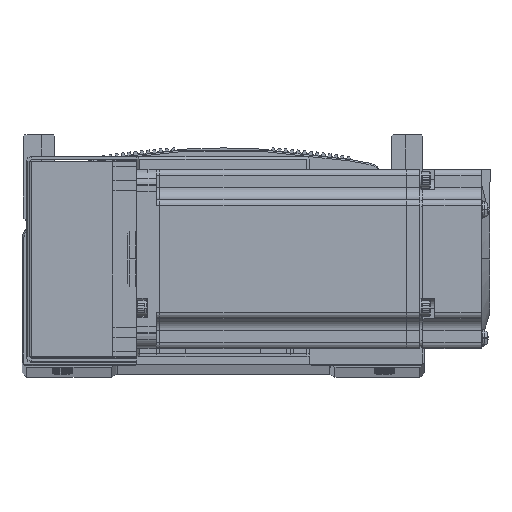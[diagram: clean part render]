
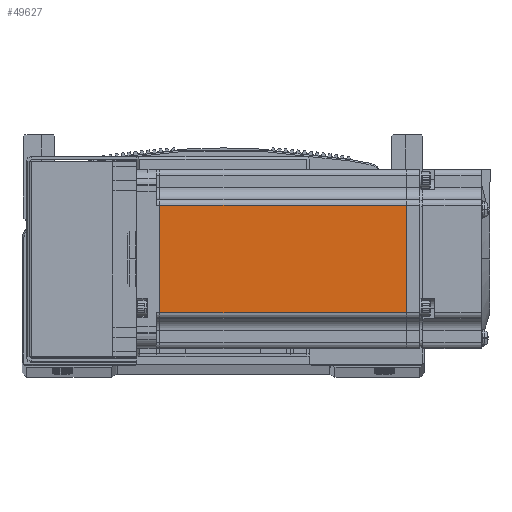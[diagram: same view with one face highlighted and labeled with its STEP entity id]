
A CAD part, top view. The second image highlights one B-rep face of the part: STEP entity #49627.
In plain terms, the highlighted planar face has unit normal (0, 0, 1) as drawn and (0, 0, -1) by its records, which use the part's own axes.
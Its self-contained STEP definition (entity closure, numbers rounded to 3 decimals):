
#3495 = VECTOR ( 'NONE', #52955, 1000. ) ;
#3525 = LINE ( 'NONE', #52946, #3535 ) ;
#3527 = LINE ( 'NONE', #52929, #3528 ) ;
#3528 = VECTOR ( 'NONE', #53028, 1000. ) ;
#3530 = LINE ( 'NONE', #52942, #3495 ) ;
#3535 = VECTOR ( 'NONE', #52969, 1000. ) ;
#3557 = VECTOR ( 'NONE', #48055, 1000. ) ;
#3571 = LINE ( 'NONE', #48077, #3557 ) ;
#5296 = EDGE_CURVE ( 'NONE', #14541, #14537, #3530, .T. ) ;
#5307 = EDGE_CURVE ( 'NONE', #14528, #14522, #3525, .T. ) ;
#5308 = EDGE_CURVE ( 'NONE', #14522, #14541, #3527, .T. ) ;
#5327 = EDGE_CURVE ( 'NONE', #14537, #14528, #3571, .T. ) ;
#14522 = VERTEX_POINT ( 'NONE', #40819 ) ;
#14528 = VERTEX_POINT ( 'NONE', #40859 ) ;
#14537 = VERTEX_POINT ( 'NONE', #40823 ) ;
#14541 = VERTEX_POINT ( 'NONE', #40844 ) ;
#15586 = EDGE_LOOP ( 'NONE', ( #75807, #75891, #75831, #75916 ) ) ;
#18301 = AXIS2_PLACEMENT_3D ( 'NONE', #76795, #76772, #76782 ) ;
#40819 = CARTESIAN_POINT ( 'NONE',  ( -7.75, -18., -30. ) ) ;
#40823 = CARTESIAN_POINT ( 'NONE',  ( -90.45, 18., -30. ) ) ;
#40844 = CARTESIAN_POINT ( 'NONE',  ( -90.45, -18., -30. ) ) ;
#40859 = CARTESIAN_POINT ( 'NONE',  ( -7.75, 18., -30. ) ) ;
#48055 = DIRECTION ( 'NONE',  ( 1., 0., 0. ) ) ;
#48077 = CARTESIAN_POINT ( 'NONE',  ( -6.5, 18., -30. ) ) ;
#49627 = ADVANCED_FACE ( 'NONE', ( #87617 ), #76833, .T. ) ;
#52929 = CARTESIAN_POINT ( 'NONE',  ( -6.5, -18., -30. ) ) ;
#52942 = CARTESIAN_POINT ( 'NONE',  ( -90.45, 25., -30. ) ) ;
#52946 = CARTESIAN_POINT ( 'NONE',  ( -7.75, 25., -30. ) ) ;
#52955 = DIRECTION ( 'NONE',  ( 0., 1., 0. ) ) ;
#52969 = DIRECTION ( 'NONE',  ( 0., -1., 0. ) ) ;
#53028 = DIRECTION ( 'NONE',  ( -1., 0., 0. ) ) ;
#75807 = ORIENTED_EDGE ( 'NONE', *, *, #5307, .T. ) ;
#75831 = ORIENTED_EDGE ( 'NONE', *, *, #5296, .T. ) ;
#75891 = ORIENTED_EDGE ( 'NONE', *, *, #5308, .T. ) ;
#75916 = ORIENTED_EDGE ( 'NONE', *, *, #5327, .T. ) ;
#76772 = DIRECTION ( 'NONE',  ( 0., 0., -1. ) ) ;
#76782 = DIRECTION ( 'NONE',  ( -1., 0., 0. ) ) ;
#76795 = CARTESIAN_POINT ( 'NONE',  ( -6.5, 25., -30. ) ) ;
#76833 = PLANE ( 'NONE',  #18301 ) ;
#87617 = FACE_OUTER_BOUND ( 'NONE', #15586, .T. ) ;
